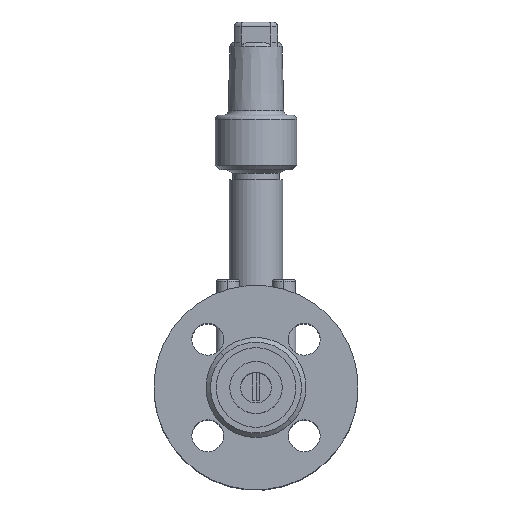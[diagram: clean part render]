
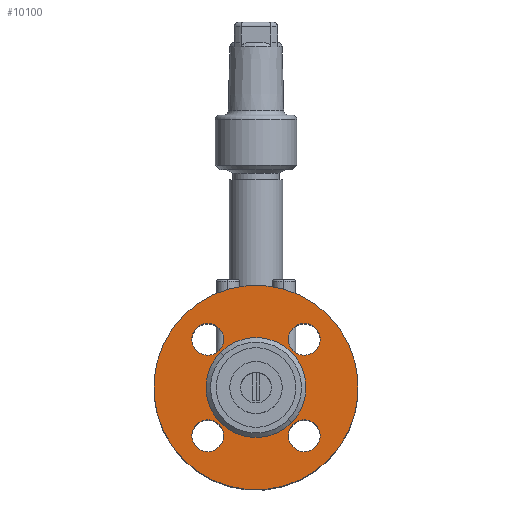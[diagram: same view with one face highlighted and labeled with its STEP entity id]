
A CAD part, top view. The second image highlights one B-rep face of the part: STEP entity #10100.
In plain terms, the highlighted planar face has unit normal (0, 0, 1) as drawn and (0, -1, 0) by its records, which use the part's own axes.
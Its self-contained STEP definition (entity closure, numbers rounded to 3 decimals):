
#305 = EDGE_CURVE ( 'NONE', #17603, #14336, #15974, .T. ) ;
#342 = ORIENTED_EDGE ( 'NONE', *, *, #17772, .T. ) ;
#413 = ORIENTED_EDGE ( 'NONE', *, *, #12042, .T. ) ;
#483 = CARTESIAN_POINT ( 'NONE',  ( -7., 2., -30. ) ) ;
#942 = EDGE_CURVE ( 'NONE', #14447, #6907, #17751, .T. ) ;
#17603 = VERTEX_POINT ( 'NONE', #10558 ) ;
#1304 = CIRCLE ( 'NONE', #1305, 7. ) ;
#1305 = AXIS2_PLACEMENT_3D ( 'NONE', #1306, #1307, #1308 ) ;
#1306 = CARTESIAN_POINT ( 'NONE',  ( -30., 2., 0. ) ) ;
#1307 = DIRECTION ( 'NONE',  ( 0., 1., 0. ) ) ;
#1308 = DIRECTION ( 'NONE',  ( -1., 0., 0. ) ) ;
#17751 = CIRCLE ( 'NONE', #17752, 45. ) ;
#17752 = AXIS2_PLACEMENT_3D ( 'NONE', #17753, #17754, #17775 ) ;
#17753 = CARTESIAN_POINT ( 'NONE',  ( 0., 2., 0. ) ) ;
#17754 = DIRECTION ( 'NONE',  ( 0., 1., 0. ) ) ;
#17772 = EDGE_CURVE ( 'NONE', #14053, #11418, #10676, .T. ) ;
#17775 = DIRECTION ( 'NONE',  ( -1., 0., 0. ) ) ;
#17807 = EDGE_LOOP ( 'NONE', ( #5292, #18182 ) ) ;
#1703 = VERTEX_POINT ( 'NONE', #20322 ) ;
#18182 = ORIENTED_EDGE ( 'NONE', *, *, #305, .T. ) ;
#1998 = CIRCLE ( 'NONE', #1999, 7. ) ;
#1999 = AXIS2_PLACEMENT_3D ( 'NONE', #2000, #2001, #2002 ) ;
#2000 = CARTESIAN_POINT ( 'NONE',  ( 0., 2., -30. ) ) ;
#2001 = DIRECTION ( 'NONE',  ( 0., 1., 0. ) ) ;
#2002 = DIRECTION ( 'NONE',  ( -1., 0., 0. ) ) ;
#2389 = EDGE_LOOP ( 'NONE', ( #413, #2703 ) ) ;
#2547 = EDGE_CURVE ( 'NONE', #11418, #14053, #1998, .T. ) ;
#2703 = ORIENTED_EDGE ( 'NONE', *, *, #15058, .T. ) ;
#2935 = ORIENTED_EDGE ( 'NONE', *, *, #2547, .T. ) ;
#19423 = ORIENTED_EDGE ( 'NONE', *, *, #5887, .T. ) ;
#3104 = CIRCLE ( 'NONE', #3105, 7. ) ;
#3105 = AXIS2_PLACEMENT_3D ( 'NONE', #3106, #3107, #3108 ) ;
#3106 = CARTESIAN_POINT ( 'NONE',  ( 30., 2., 0. ) ) ;
#3107 = DIRECTION ( 'NONE',  ( 0., 1., 0. ) ) ;
#3108 = DIRECTION ( 'NONE',  ( -1., 0., 0. ) ) ;
#20322 = CARTESIAN_POINT ( 'NONE',  ( 23., 2., 0. ) ) ;
#20340 = FACE_BOUND ( 'NONE', #10002, .T. ) ;
#20360 = FACE_BOUND ( 'NONE', #2389, .T. ) ;
#20361 = FACE_BOUND ( 'NONE', #11640, .T. ) ;
#20362 = FACE_BOUND ( 'NONE', #4388, .T. ) ;
#20363 = FACE_OUTER_BOUND ( 'NONE', #5351, .T. ) ;
#20364 = FACE_BOUND ( 'NONE', #17807, .T. ) ;
#20365 = PLANE ( 'NONE',  #20366 ) ;
#20366 = AXIS2_PLACEMENT_3D ( 'NONE', #20367, #20368, #20369 ) ;
#20367 = CARTESIAN_POINT ( 'NONE',  ( 22., 2., 0. ) ) ;
#20368 = DIRECTION ( 'NONE',  ( 0., 1., 0. ) ) ;
#20369 = DIRECTION ( 'NONE',  ( -1., 0., 0. ) ) ;
#20615 = EDGE_CURVE ( 'NONE', #6348, #1703, #12582, .T. ) ;
#20616 = VERTEX_POINT ( 'NONE', #12590 ) ;
#4388 = EDGE_LOOP ( 'NONE', ( #10375, #4803 ) ) ;
#4390 = VERTEX_POINT ( 'NONE', #5609 ) ;
#4616 = VERTEX_POINT ( 'NONE', #6276 ) ;
#21030 = VERTEX_POINT ( 'NONE', #12713 ) ;
#4803 = ORIENTED_EDGE ( 'NONE', *, *, #20615, .T. ) ;
#21308 = EDGE_CURVE ( 'NONE', #21030, #20616, #13696, .T. ) ;
#5292 = ORIENTED_EDGE ( 'NONE', *, *, #14467, .T. ) ;
#5351 = EDGE_LOOP ( 'NONE', ( #13354, #13115 ) ) ;
#5609 = CARTESIAN_POINT ( 'NONE',  ( -37., 2., 0. ) ) ;
#5887 = EDGE_CURVE ( 'NONE', #20616, #21030, #8392, .T. ) ;
#6241 = CARTESIAN_POINT ( 'NONE',  ( 7., 2., -30. ) ) ;
#6276 = CARTESIAN_POINT ( 'NONE',  ( -23., 2., 0. ) ) ;
#6348 = VERTEX_POINT ( 'NONE', #9059 ) ;
#6414 = CARTESIAN_POINT ( 'NONE',  ( -22., 2., 0. ) ) ;
#6479 = CARTESIAN_POINT ( 'NONE',  ( 45., 2., 0. ) ) ;
#6529 = CIRCLE ( 'NONE', #6533, 22. ) ;
#6533 = AXIS2_PLACEMENT_3D ( 'NONE', #6534, #6535, #6536 ) ;
#6534 = CARTESIAN_POINT ( 'NONE',  ( 0., 2., 0. ) ) ;
#6535 = DIRECTION ( 'NONE',  ( 0., 1., 0. ) ) ;
#6536 = DIRECTION ( 'NONE',  ( -1., 0., 0. ) ) ;
#6550 = EDGE_CURVE ( 'NONE', #6907, #14447, #9470, .T. ) ;
#6907 = VERTEX_POINT ( 'NONE', #10262 ) ;
#7892 = CIRCLE ( 'NONE', #7893, 7. ) ;
#7893 = AXIS2_PLACEMENT_3D ( 'NONE', #7894, #7895, #7896 ) ;
#7894 = CARTESIAN_POINT ( 'NONE',  ( -30., 2., 0. ) ) ;
#7895 = DIRECTION ( 'NONE',  ( 0., 1., 0. ) ) ;
#7896 = DIRECTION ( 'NONE',  ( -1., 0., 0. ) ) ;
#8392 = CIRCLE ( 'NONE', #8393, 7. ) ;
#8393 = AXIS2_PLACEMENT_3D ( 'NONE', #8394, #8395, #8396 ) ;
#8394 = CARTESIAN_POINT ( 'NONE',  ( 0., 2., 30. ) ) ;
#8395 = DIRECTION ( 'NONE',  ( 0., 1., 0. ) ) ;
#8396 = DIRECTION ( 'NONE',  ( -1., 0., 0. ) ) ;
#9059 = CARTESIAN_POINT ( 'NONE',  ( 37., 2., 0. ) ) ;
#9470 = CIRCLE ( 'NONE', #9471, 45. ) ;
#9471 = AXIS2_PLACEMENT_3D ( 'NONE', #9473, #9474, #9475 ) ;
#9473 = CARTESIAN_POINT ( 'NONE',  ( 0., 2., 0. ) ) ;
#9474 = DIRECTION ( 'NONE',  ( 0., 1., 0. ) ) ;
#9475 = DIRECTION ( 'NONE',  ( -1., 0., 0. ) ) ;
#9796 = ORIENTED_EDGE ( 'NONE', *, *, #21308, .T. ) ;
#10002 = EDGE_LOOP ( 'NONE', ( #2935, #342 ) ) ;
#10100 = ADVANCED_FACE ( 'NONE', ( #20340, #20360, #20361, #20362, #20363, #20364 ), #20365, .F. ) ;
#10262 = CARTESIAN_POINT ( 'NONE',  ( -45., 2., 0. ) ) ;
#10375 = ORIENTED_EDGE ( 'NONE', *, *, #12715, .T. ) ;
#10558 = CARTESIAN_POINT ( 'NONE',  ( 22., 2., 0. ) ) ;
#10676 = CIRCLE ( 'NONE', #10677, 7. ) ;
#10677 = AXIS2_PLACEMENT_3D ( 'NONE', #10678, #10679, #10680 ) ;
#10678 = CARTESIAN_POINT ( 'NONE',  ( 0., 2., -30. ) ) ;
#10679 = DIRECTION ( 'NONE',  ( 0., 1., 0. ) ) ;
#10680 = DIRECTION ( 'NONE',  ( -1., 0., 0. ) ) ;
#11418 = VERTEX_POINT ( 'NONE', #483 ) ;
#11640 = EDGE_LOOP ( 'NONE', ( #19423, #9796 ) ) ;
#12042 = EDGE_CURVE ( 'NONE', #4390, #4616, #1304, .T. ) ;
#12582 = CIRCLE ( 'NONE', #12583, 7. ) ;
#12583 = AXIS2_PLACEMENT_3D ( 'NONE', #12584, #12585, #12586 ) ;
#12584 = CARTESIAN_POINT ( 'NONE',  ( 30., 2., 0. ) ) ;
#12585 = DIRECTION ( 'NONE',  ( 0., 1., 0. ) ) ;
#12586 = DIRECTION ( 'NONE',  ( -1., 0., 0. ) ) ;
#12590 = CARTESIAN_POINT ( 'NONE',  ( -7., 2., 30. ) ) ;
#12713 = CARTESIAN_POINT ( 'NONE',  ( 7., 2., 30. ) ) ;
#12715 = EDGE_CURVE ( 'NONE', #1703, #6348, #3104, .T. ) ;
#13115 = ORIENTED_EDGE ( 'NONE', *, *, #942, .F. ) ;
#13354 = ORIENTED_EDGE ( 'NONE', *, *, #6550, .F. ) ;
#13696 = CIRCLE ( 'NONE', #13697, 7. ) ;
#13697 = AXIS2_PLACEMENT_3D ( 'NONE', #13698, #13699, #13700 ) ;
#13698 = CARTESIAN_POINT ( 'NONE',  ( 0., 2., 30. ) ) ;
#13699 = DIRECTION ( 'NONE',  ( 0., 1., 0. ) ) ;
#13700 = DIRECTION ( 'NONE',  ( -1., 0., 0. ) ) ;
#14053 = VERTEX_POINT ( 'NONE', #6241 ) ;
#14336 = VERTEX_POINT ( 'NONE', #6414 ) ;
#14447 = VERTEX_POINT ( 'NONE', #6479 ) ;
#14467 = EDGE_CURVE ( 'NONE', #14336, #17603, #6529, .T. ) ;
#15058 = EDGE_CURVE ( 'NONE', #4616, #4390, #7892, .T. ) ;
#15974 = CIRCLE ( 'NONE', #15975, 22. ) ;
#15975 = AXIS2_PLACEMENT_3D ( 'NONE', #15976, #15977, #15978 ) ;
#15976 = CARTESIAN_POINT ( 'NONE',  ( 0., 2., 0. ) ) ;
#15977 = DIRECTION ( 'NONE',  ( 0., 1., 0. ) ) ;
#15978 = DIRECTION ( 'NONE',  ( -1., 0., 0. ) ) ;
